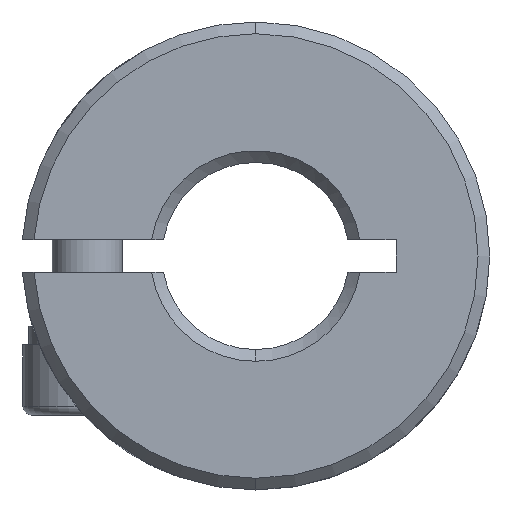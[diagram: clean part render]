
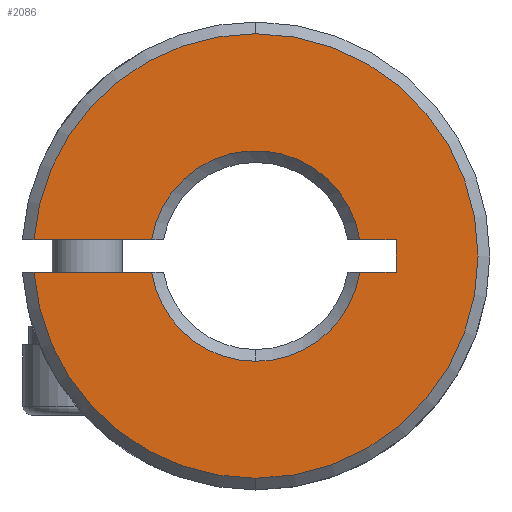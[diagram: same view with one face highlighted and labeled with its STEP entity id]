
A CAD part, front view. The second image highlights one B-rep face of the part: STEP entity #2086.
In plain terms, the highlighted planar face has unit normal (0, -1, 0).
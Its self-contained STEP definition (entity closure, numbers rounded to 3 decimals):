
#12 = VERTEX_POINT ( 'NONE', #3653 ) ;
#21 = DIRECTION ( 'NONE',  ( 0., 0., 1. ) ) ;
#97 = LINE ( 'NONE', #1239, #2135 ) ;
#116 = LINE ( 'NONE', #2913, #2848 ) ;
#143 = CARTESIAN_POINT ( 'NONE',  ( 0., 0.25, 0. ) ) ;
#152 = VECTOR ( 'NONE', #3307, 1000. ) ;
#245 = DIRECTION ( 'NONE',  ( 1., 0., 0. ) ) ;
#246 = AXIS2_PLACEMENT_3D ( 'NONE', #143, #2119, #2167 ) ;
#251 = CIRCLE ( 'NONE', #2234, 4.5 ) ;
#281 = DIRECTION ( 'NONE',  ( -1., 0., 0. ) ) ;
#357 = VERTEX_POINT ( 'NONE', #3297 ) ;
#390 = CARTESIAN_POINT ( 'NONE',  ( 6., 0.25, -0.7 ) ) ;
#417 = DIRECTION ( 'NONE',  ( 0., -1., 0. ) ) ;
#425 = DIRECTION ( 'NONE',  ( 0., 1., 0. ) ) ;
#437 = CARTESIAN_POINT ( 'NONE',  ( 6., 0.25, 0.7 ) ) ;
#499 = VECTOR ( 'NONE', #1079, 1000. ) ;
#547 = VECTOR ( 'NONE', #245, 1000. ) ;
#665 = CARTESIAN_POINT ( 'NONE',  ( 0., 0.25, 0. ) ) ;
#697 = AXIS2_PLACEMENT_3D ( 'NONE', #2695, #425, #2128 ) ;
#731 = VERTEX_POINT ( 'NONE', #3632 ) ;
#933 = CARTESIAN_POINT ( 'NONE',  ( 0., 0.25, 9.5 ) ) ;
#942 = CARTESIAN_POINT ( 'NONE',  ( 0., 0.25, 0. ) ) ;
#975 = CARTESIAN_POINT ( 'NONE',  ( 4.445, 0.25, -0.7 ) ) ;
#976 = DIRECTION ( 'NONE',  ( 0., -1., 0. ) ) ;
#1007 = EDGE_LOOP ( 'NONE', ( #2743, #1518, #3193, #2174, #2507, #3437, #3741, #1409, #3435, #1138, #3542 ) ) ;
#1044 = CARTESIAN_POINT ( 'NONE',  ( -4.445, 0.25, -0.7 ) ) ;
#1056 = DIRECTION ( 'NONE',  ( 0., 0., 1. ) ) ;
#1079 = DIRECTION ( 'NONE',  ( 1., 0., 0. ) ) ;
#1089 = DIRECTION ( 'NONE',  ( 0., 1., 0. ) ) ;
#1138 = ORIENTED_EDGE ( 'NONE', *, *, #3485, .T. ) ;
#1139 = CARTESIAN_POINT ( 'NONE',  ( 6., 0.25, -0.7 ) ) ;
#1160 = EDGE_CURVE ( 'NONE', #731, #1733, #116, .T. ) ;
#1173 = CIRCLE ( 'NONE', #3405, 9.5 ) ;
#1239 = CARTESIAN_POINT ( 'NONE',  ( 6., 0.25, 0.7 ) ) ;
#1321 = EDGE_CURVE ( 'NONE', #2538, #2036, #3319, .T. ) ;
#1409 = ORIENTED_EDGE ( 'NONE', *, *, #2776, .F. ) ;
#1506 = LINE ( 'NONE', #1139, #547 ) ;
#1518 = ORIENTED_EDGE ( 'NONE', *, *, #1721, .T. ) ;
#1628 = CARTESIAN_POINT ( 'NONE',  ( 0., 0.25, -4.5 ) ) ;
#1681 = VERTEX_POINT ( 'NONE', #390 ) ;
#1721 = EDGE_CURVE ( 'NONE', #12, #357, #2411, .T. ) ;
#1733 = VERTEX_POINT ( 'NONE', #1887 ) ;
#1738 = CARTESIAN_POINT ( 'NONE',  ( 0., 0.25, 0. ) ) ;
#1778 = DIRECTION ( 'NONE',  ( 0., 0., 1. ) ) ;
#1791 = DIRECTION ( 'NONE',  ( 0., 0., 1. ) ) ;
#1792 = DIRECTION ( 'NONE',  ( 0., -1., 0. ) ) ;
#1879 = EDGE_CURVE ( 'NONE', #731, #2036, #251, .T. ) ;
#1887 = CARTESIAN_POINT ( 'NONE',  ( -9.474, 0.25, 0.7 ) ) ;
#1913 = CARTESIAN_POINT ( 'NONE',  ( 0., 0.25, 0. ) ) ;
#1935 = AXIS2_PLACEMENT_3D ( 'NONE', #942, #976, #1791 ) ;
#1938 = CARTESIAN_POINT ( 'NONE',  ( 0., 0.25, 0. ) ) ;
#1999 = CIRCLE ( 'NONE', #2768, 4.5 ) ;
#2009 = EDGE_CURVE ( 'NONE', #2765, #1733, #1173, .T. ) ;
#2036 = VERTEX_POINT ( 'NONE', #2661 ) ;
#2086 = ADVANCED_FACE ( 'NONE', ( #3278 ), #3604, .F. ) ;
#2119 = DIRECTION ( 'NONE',  ( 0., 1., 0. ) ) ;
#2128 = DIRECTION ( 'NONE',  ( 0., 0., 1. ) ) ;
#2135 = VECTOR ( 'NONE', #3562, 1000. ) ;
#2167 = DIRECTION ( 'NONE',  ( 0., 0., 1. ) ) ;
#2174 = ORIENTED_EDGE ( 'NONE', *, *, #2009, .T. ) ;
#2234 = AXIS2_PLACEMENT_3D ( 'NONE', #1938, #1089, #3421 ) ;
#2411 = CIRCLE ( 'NONE', #2898, 9.5 ) ;
#2471 = DIRECTION ( 'NONE',  ( 0., 1., 0. ) ) ;
#2498 = CIRCLE ( 'NONE', #246, 4.5 ) ;
#2500 = CARTESIAN_POINT ( 'NONE',  ( 6., 0.25, -0.7 ) ) ;
#2507 = ORIENTED_EDGE ( 'NONE', *, *, #1160, .F. ) ;
#2513 = EDGE_CURVE ( 'NONE', #357, #2765, #2585, .T. ) ;
#2538 = VERTEX_POINT ( 'NONE', #437 ) ;
#2585 = CIRCLE ( 'NONE', #1935, 9.5 ) ;
#2589 = EDGE_CURVE ( 'NONE', #3333, #3755, #2498, .T. ) ;
#2661 = CARTESIAN_POINT ( 'NONE',  ( 4.445, 0.25, 0.7 ) ) ;
#2676 = EDGE_CURVE ( 'NONE', #3391, #1681, #2983, .T. ) ;
#2695 = CARTESIAN_POINT ( 'NONE',  ( -50., 0.25, 12. ) ) ;
#2743 = ORIENTED_EDGE ( 'NONE', *, *, #3519, .F. ) ;
#2765 = VERTEX_POINT ( 'NONE', #933 ) ;
#2768 = AXIS2_PLACEMENT_3D ( 'NONE', #1738, #2471, #1778 ) ;
#2776 = EDGE_CURVE ( 'NONE', #1681, #2538, #97, .T. ) ;
#2848 = VECTOR ( 'NONE', #281, 1000. ) ;
#2898 = AXIS2_PLACEMENT_3D ( 'NONE', #1913, #417, #1056 ) ;
#2913 = CARTESIAN_POINT ( 'NONE',  ( 6., 0.25, 0.7 ) ) ;
#2983 = LINE ( 'NONE', #2500, #499 ) ;
#3193 = ORIENTED_EDGE ( 'NONE', *, *, #2513, .T. ) ;
#3278 = FACE_OUTER_BOUND ( 'NONE', #1007, .T. ) ;
#3297 = CARTESIAN_POINT ( 'NONE',  ( 0., 0.25, -9.5 ) ) ;
#3307 = DIRECTION ( 'NONE',  ( -1., 0., 0. ) ) ;
#3319 = LINE ( 'NONE', #3640, #152 ) ;
#3333 = VERTEX_POINT ( 'NONE', #1628 ) ;
#3391 = VERTEX_POINT ( 'NONE', #975 ) ;
#3405 = AXIS2_PLACEMENT_3D ( 'NONE', #665, #1792, #21 ) ;
#3421 = DIRECTION ( 'NONE',  ( 0., 0., 1. ) ) ;
#3435 = ORIENTED_EDGE ( 'NONE', *, *, #2676, .F. ) ;
#3437 = ORIENTED_EDGE ( 'NONE', *, *, #1879, .T. ) ;
#3485 = EDGE_CURVE ( 'NONE', #3391, #3333, #1999, .T. ) ;
#3519 = EDGE_CURVE ( 'NONE', #12, #3755, #1506, .T. ) ;
#3542 = ORIENTED_EDGE ( 'NONE', *, *, #2589, .T. ) ;
#3562 = DIRECTION ( 'NONE',  ( 0., 0., 1. ) ) ;
#3604 = PLANE ( 'NONE',  #697 ) ;
#3632 = CARTESIAN_POINT ( 'NONE',  ( -4.445, 0.25, 0.7 ) ) ;
#3640 = CARTESIAN_POINT ( 'NONE',  ( 6., 0.25, 0.7 ) ) ;
#3653 = CARTESIAN_POINT ( 'NONE',  ( -9.474, 0.25, -0.7 ) ) ;
#3741 = ORIENTED_EDGE ( 'NONE', *, *, #1321, .F. ) ;
#3755 = VERTEX_POINT ( 'NONE', #1044 ) ;
